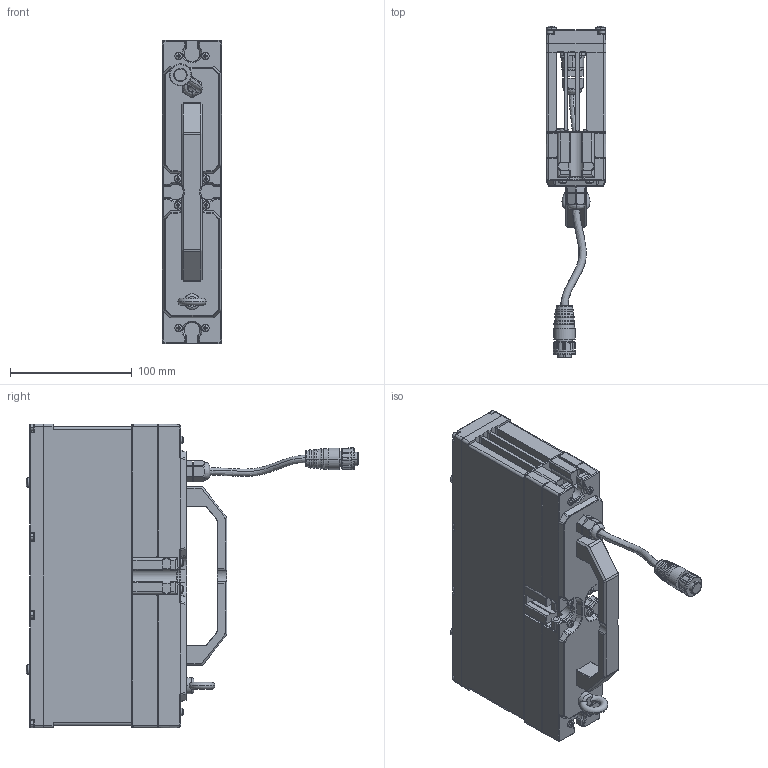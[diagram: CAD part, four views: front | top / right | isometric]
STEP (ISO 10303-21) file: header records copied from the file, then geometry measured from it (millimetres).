
FILE_DESCRIPTION((''),'2;1');
FILE_NAME('EASY_SW0001','2019-07-17T11:45:00',('fw'),(''),'CREO PARAMETRIC BY PTC INC, 2018260','CREO PARAMETRIC BY PTC INC, 2018260','');
FILE_SCHEMA(('AUTOMOTIVE_DESIGN { 1 0 10303 214 1 1 1 1 }'));
Products named in the file (1): EASY_SW0001
Bounding box: 49 x 272.15 x 249 mm (x, y, z)
Surface area: 242640.4 mm2 (no closed solid volume)
Topology: 0 solids, 77 shells, 1359 faces, 3908 edges, 2534 vertices
Faces by surface type: plane 551, cylinder 357, bspline 244, cone 120, torus 47, sphere 40
Entity records: 62247 total; most frequent: CARTESIAN_POINT 18791, ORIENTED_EDGE 6802, DIRECTION 6554, EDGE_CURVE 3908, VERTEX_POINT 2534, VECTOR 2218, LINE 2218, AXIS2_PLACEMENT_3D 2168
